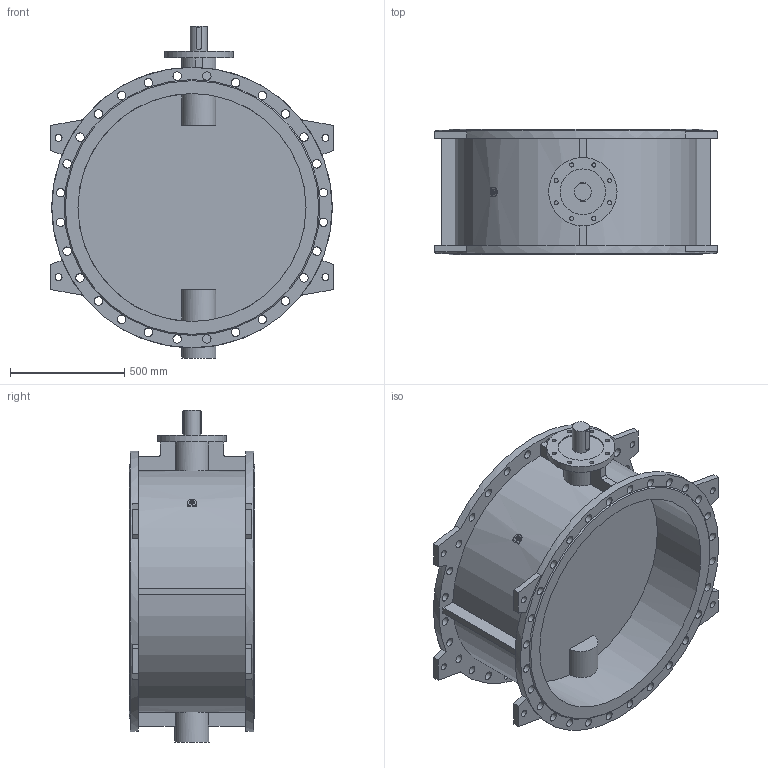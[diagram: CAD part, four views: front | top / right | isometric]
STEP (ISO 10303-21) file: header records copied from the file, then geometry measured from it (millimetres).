
FILE_DESCRIPTION(('STEP AP203'), '1');
FILE_NAME('Çàòâîð 023F.Z DN1000 PN10_èñï', '', ('UNSPECIFIED'), ('UNSPECIFIED'), 'ASCON STEP Converter 1.6', 'ASCON Math Kernel', '');
FILE_SCHEMA(('CONFIG_CONTROL_DESIGN'));
Length unit declared in the file: millimetre
Bounding box: 1240 x 550 x 1456 mm (x, y, z)
Volume: 151299686.6 mm3; surface area: 7148508.9 mm2
Topology: 1 solids, 1 shells, 186 faces, 513 edges, 342 vertices
Faces by surface type: cylinder 99, plane 85, cone 2
Full cylindrical faces by diameter (mm): 18 x8, 30 x8, 37 x56, 75 x1, 150 x1, 200 x1, 300 x1, 1000 x2, 1230 x2
Entity records: 8507 total; most frequent: CARTESIAN_POINT 2095, DIRECTION 998, ORIENTED_EDGE 860, EDGE_CURVE 430, EDGE_LOOP 426, AXIS2_PLACEMENT_3D 400, VERTEX_POINT 342, FACE_BOUND 266
